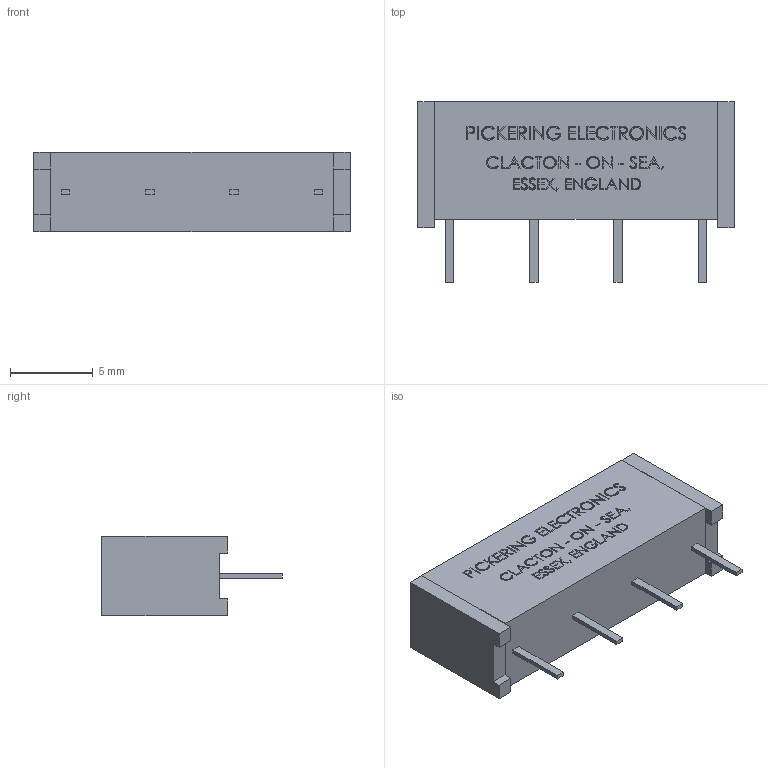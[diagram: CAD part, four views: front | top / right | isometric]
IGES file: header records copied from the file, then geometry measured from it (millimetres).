
Start section: SolidWorks IGES file using analytic representation for surfaces
Global section: file name: T:\Relays in Solidworks\Batch 5\107-1-A-x-xx.IGS; native system: SolidWorks 2009; preprocessor: SolidWorks 2009; author: alex.leming; date: 100630.140158; units: millimetre
Bounding box: 19.1 x 10.9 x 4.8 mm (x, y, z)
Surface area: 718.3 mm2 (no closed solid volume)
Topology: 0 solids, 0 shells, 981 faces, 8074 edges, 8074 vertices
Faces by surface type: bspline 981
